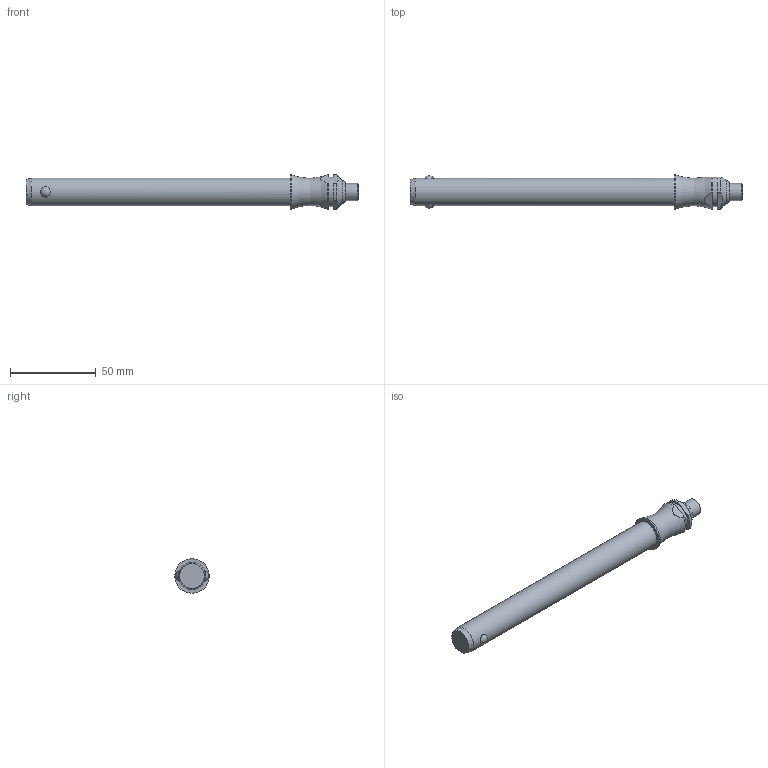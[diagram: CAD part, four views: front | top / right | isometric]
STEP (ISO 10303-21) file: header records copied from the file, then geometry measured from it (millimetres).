
FILE_DESCRIPTION( ( 'STEP AP203' ), '1' );
FILE_NAME( 'C:/Temp/Ganter_Step_05_03_2020/data/3_1/gn113_3/Stainless Steel-Ball lock pin GN 113.3-16-140 (deactivated).stp', '2020-03-12T08:19:00', ( 'License CC BY-ND 4.0' ), ( 'CADENAS' ), ' ', 'PARTsolutions', ' ' );
FILE_SCHEMA( ( 'CONFIG_CONTROL_DESIGN' ) );
Length unit declared in the file: millimetre
Products named in the file (1): _Stainless Steel-Ball lock pin GN 113.3-16-140 (deactivated)
Bounding box: 193.5 x 20 x 20 mm (x, y, z)
Volume: 38912.7 mm3; surface area: 10301 mm2
Topology: 1 solids, 1 shells, 28 faces, 60 edges, 39 vertices
Faces by surface type: plane 11, cylinder 10, cone 3, torus 2, sphere 2
Full cylindrical faces by diameter (mm): 10 x1, 16 x1, 17 x1, 20 x1
Entity records: 966 total; most frequent: CARTESIAN_POINT 350, DIRECTION 122, ORIENTED_EDGE 98, AXIS2_PLACEMENT_3D 52, EDGE_CURVE 49, EDGE_LOOP 42, VERTEX_POINT 38, FACE_OUTER_BOUND 34
